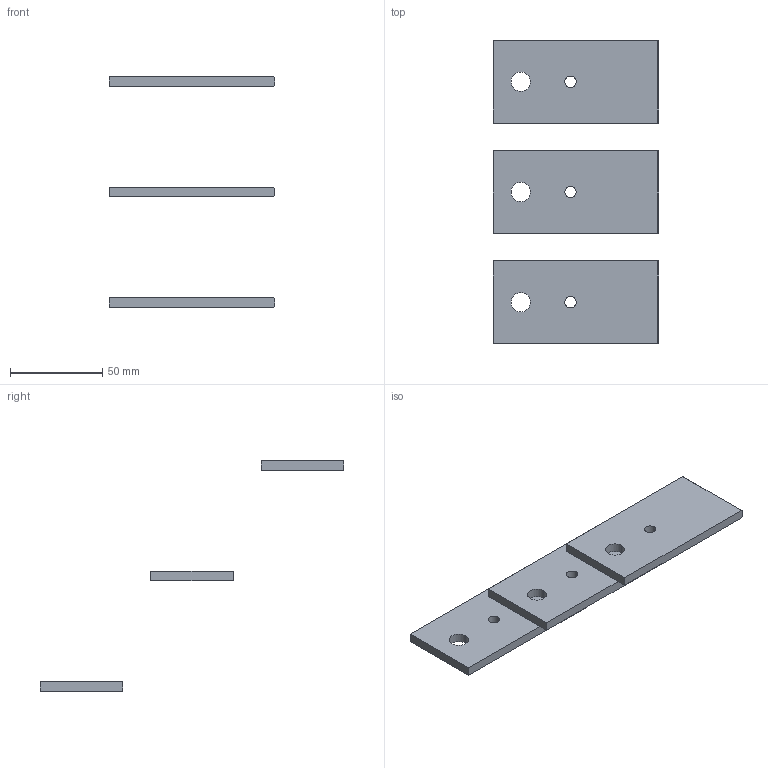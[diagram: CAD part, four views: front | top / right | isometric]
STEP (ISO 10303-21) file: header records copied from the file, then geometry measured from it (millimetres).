
FILE_DESCRIPTION(('CAx-IF Rec.Pracs.---Model Styling and Organization---1.2---2011-12-15','CAx-IF Rec.Pracs.---Geometric and Assembly Validation Properties---4.1---2014-06-16','CAx-IF Rec.Pracs.---PMI Polyline Presentation---2.0---2013-05-24'),'2;1');
FILE_NAME('R5M2WBB3P6.stp','2021-05-05T11:53:36+03:00',(''),(''),'STEP Interface 4.4 by CT CoreTechnologie','3D_Evolution4.4 by CT CoreTechnologie','');
FILE_SCHEMA(('AUTOMOTIVE_DESIGN { 1 0 10303 214 1 1 1 1 }'));
Length unit declared in the file: millimetre
Products named in the file (2): R5M2WBB3P6; RB.1291.00.00.0_-01
Assembly tree (3 placements, depth 2):
  R5M2WBB3P6
    RB.1291.00.00.0_-01  x3
Bounding box: 90 x 165 x 125 mm (x, y, z)
Surface area: 28355.7 mm2 (no closed solid volume)
Topology: 0 solids, 3 shells, 36 faces, 90 edges, 60 vertices
Faces by surface type: plane 24, cylinder 12
Entity records: 483 total; most frequent: DIRECTION 70, CARTESIAN_POINT 66, ORIENTED_EDGE 60, EDGE_CURVE 30, AXIS2_PLACEMENT_3D 24, VECTOR 22, LINE 22, VERTEX_POINT 20
